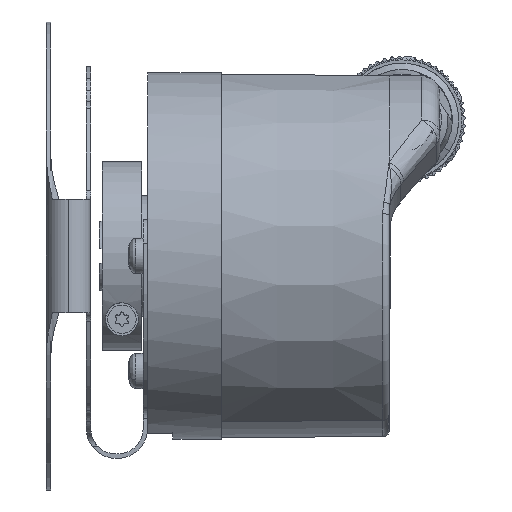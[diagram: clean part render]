
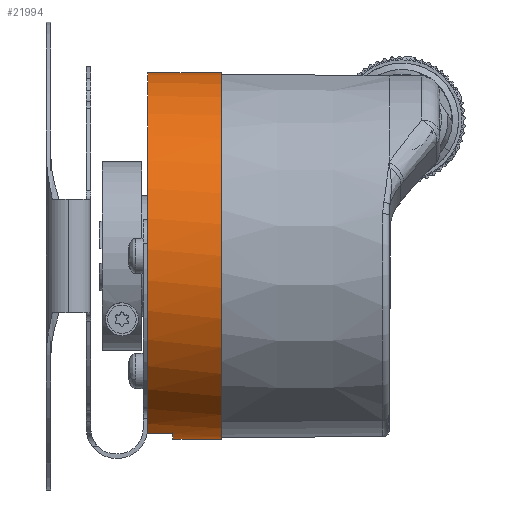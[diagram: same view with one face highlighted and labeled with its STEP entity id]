
A CAD part, front view. The second image highlights one B-rep face of the part: STEP entity #21994.
In plain terms, the highlighted cylindrical face has radius 29 mm (diameter 58 mm), a partial arc.
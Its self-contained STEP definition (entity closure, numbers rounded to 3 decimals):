
#37 = VERTEX_POINT ( 'NONE', #28860 ) ;
#505 = DIRECTION ( 'NONE',  ( 1., 0., 0. ) ) ;
#1485 = LINE ( 'NONE', #9039, #43054 ) ;
#1519 = CARTESIAN_POINT ( 'NONE',  ( 8.068, 25.423, 29. ) ) ;
#1884 = DIRECTION ( 'NONE',  ( 1., 0., 0. ) ) ;
#2874 = CARTESIAN_POINT ( 'NONE',  ( -3.622, 25.423, 0. ) ) ;
#3245 = CARTESIAN_POINT ( 'NONE',  ( 8.068, 25.423, -29. ) ) ;
#5475 = EDGE_CURVE ( 'NONE', #17894, #36160, #1485, .T. ) ;
#5958 = AXIS2_PLACEMENT_3D ( 'NONE', #6652, #24827, #25312 ) ;
#6652 = CARTESIAN_POINT ( 'NONE',  ( 8.068, 25.423, 0. ) ) ;
#6869 = EDGE_CURVE ( 'NONE', #37, #20006, #34668, .T. ) ;
#7370 = CARTESIAN_POINT ( 'NONE',  ( 8.068, 18.423, -28.142 ) ) ;
#7794 = VERTEX_POINT ( 'NONE', #42268 ) ;
#9039 = CARTESIAN_POINT ( 'NONE',  ( 8.068, 25.423, -29. ) ) ;
#9424 = FACE_OUTER_BOUND ( 'NONE', #27916, .T. ) ;
#15081 = VECTOR ( 'NONE', #19934, 1000. ) ;
#15898 = AXIS2_PLACEMENT_3D ( 'NONE', #31844, #1884, #31612 ) ;
#17894 = VERTEX_POINT ( 'NONE', #48139 ) ;
#18432 = ORIENTED_EDGE ( 'NONE', *, *, #5475, .T. ) ;
#18664 = ORIENTED_EDGE ( 'NONE', *, *, #6869, .T. ) ;
#19273 = CIRCLE ( 'NONE', #30502, 29. ) ;
#19934 = DIRECTION ( 'NONE',  ( 1., 0., 0. ) ) ;
#20006 = VERTEX_POINT ( 'NONE', #41070 ) ;
#20163 = DIRECTION ( 'NONE',  ( 0., 0., 1. ) ) ;
#20826 = ORIENTED_EDGE ( 'NONE', *, *, #35833, .T. ) ;
#21778 = CYLINDRICAL_SURFACE ( 'NONE', #5958, 29. ) ;
#21994 = ADVANCED_FACE ( 'NONE', ( #9424 ), #21778, .T. ) ;
#24827 = DIRECTION ( 'NONE',  ( 1., 0., 0. ) ) ;
#24932 = DIRECTION ( 'NONE',  ( 1., 0., 0. ) ) ;
#25014 = CARTESIAN_POINT ( 'NONE',  ( 0.378, 18.423, -28.142 ) ) ;
#25312 = DIRECTION ( 'NONE',  ( 0., 0., -1. ) ) ;
#27916 = EDGE_LOOP ( 'NONE', ( #46803, #18664, #38339, #20826, #18432, #31928 ) ) ;
#27969 = LINE ( 'NONE', #1519, #15081 ) ;
#28860 = CARTESIAN_POINT ( 'NONE',  ( -3.622, 25.423, 29. ) ) ;
#29562 = DIRECTION ( 'NONE',  ( 1., 0., 0. ) ) ;
#30436 = VECTOR ( 'NONE', #34538, 1000. ) ;
#30502 = AXIS2_PLACEMENT_3D ( 'NONE', #49669, #505, #20163 ) ;
#31612 = DIRECTION ( 'NONE',  ( 0., 0., -1. ) ) ;
#31817 = VERTEX_POINT ( 'NONE', #25014 ) ;
#31844 = CARTESIAN_POINT ( 'NONE',  ( 8.068, 25.423, 0. ) ) ;
#31928 = ORIENTED_EDGE ( 'NONE', *, *, #33917, .F. ) ;
#32167 = EDGE_CURVE ( 'NONE', #37, #7794, #27969, .T. ) ;
#33568 = DIRECTION ( 'NONE',  ( 0., 0., -1. ) ) ;
#33879 = AXIS2_PLACEMENT_3D ( 'NONE', #2874, #29562, #33568 ) ;
#33917 = EDGE_CURVE ( 'NONE', #7794, #36160, #47292, .T. ) ;
#34292 = LINE ( 'NONE', #7370, #30436 ) ;
#34538 = DIRECTION ( 'NONE',  ( -1., 0., 0. ) ) ;
#34668 = CIRCLE ( 'NONE', #33879, 29. ) ;
#34841 = EDGE_CURVE ( 'NONE', #31817, #20006, #34292, .T. ) ;
#35833 = EDGE_CURVE ( 'NONE', #31817, #17894, #19273, .T. ) ;
#36160 = VERTEX_POINT ( 'NONE', #3245 ) ;
#38339 = ORIENTED_EDGE ( 'NONE', *, *, #34841, .F. ) ;
#41070 = CARTESIAN_POINT ( 'NONE',  ( -3.622, 18.423, -28.142 ) ) ;
#42268 = CARTESIAN_POINT ( 'NONE',  ( 8.068, 25.423, 29. ) ) ;
#43054 = VECTOR ( 'NONE', #24932, 1000. ) ;
#46803 = ORIENTED_EDGE ( 'NONE', *, *, #32167, .F. ) ;
#47292 = CIRCLE ( 'NONE', #15898, 29. ) ;
#48139 = CARTESIAN_POINT ( 'NONE',  ( 0.378, 25.423, -29. ) ) ;
#49669 = CARTESIAN_POINT ( 'NONE',  ( 0.378, 25.423, 0. ) ) ;
